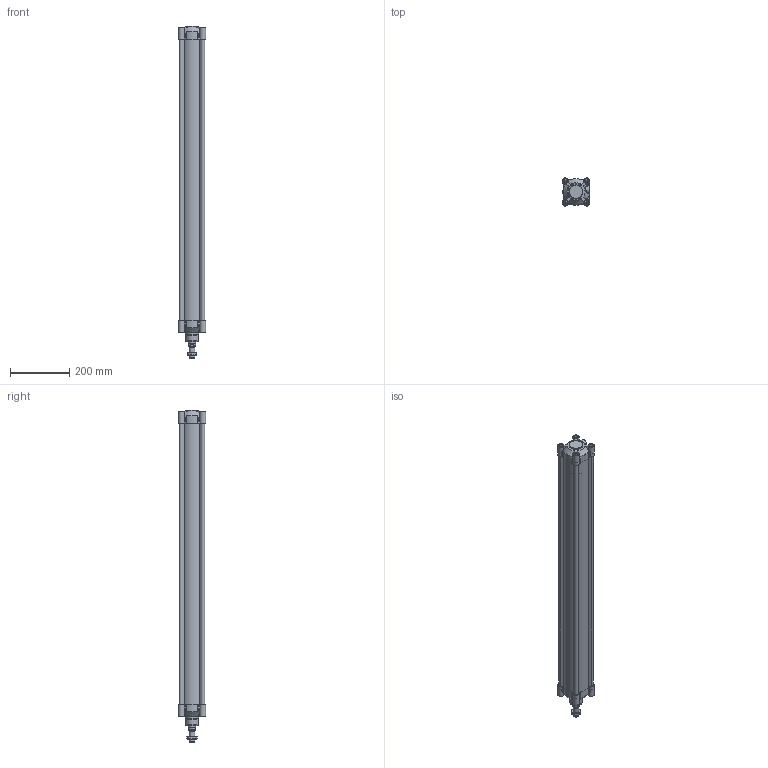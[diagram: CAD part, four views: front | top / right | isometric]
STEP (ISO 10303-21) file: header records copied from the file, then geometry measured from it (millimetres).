
FILE_DESCRIPTION(/* description */ ('Unknown'),/* implementation_level */ '2;1');
FILE_NAME(/* name */ 'HIF 80_900',/* time_stamp */ '2024-08-13T07:26:14+02:00',/* author */ ('Unknown'),/* organization */ ('Unknown'),/* preprocessor_version */ 'ST-DEVELOPER v16.7',/* originating_system */ 'Solid Edge',/* authorisation */ 'Unknown');
FILE_SCHEMA (('AUTOMOTIVE_DESIGN {1 0 10303 214 3 1 1}'));
Length unit declared in the file: millimetre
Products named in the file (6): HIF 80_900; Kit_2; Kit_1; Profilrohr 80_900; Kolbenstange 80_900; Mutter
Assembly tree (5 placements, depth 2):
  HIF 80_900
    Kit_2
    Kit_1
    Profilrohr 80_900
    Kolbenstange 80_900
    Mutter
Bounding box: 93 x 93 x 1118 mm (x, y, z)
Volume: 2397000 mm3; surface area: 1037883.1 mm2
Topology: 5 solids, 19 shells, 1302 faces, 3172 edges, 1948 vertices
Faces by surface type: cylinder 496, plane 376, cone 144, sphere 106, torus 104, bspline 76
Full cylindrical faces by diameter (mm): 8.376 x16, 10 x8, 10.3 x8, 12 x2, 13 x2, 14.94 x2, 14.95 x2, 16 x8, 16.3 x8, 17.5 x1, 18.376 x1, 20 x1, 24.5 x1, 25 x3, 25.8 x1, 25.962 x1, 30 x2, 31.5 x2, 35 x2, 43.5 x1, 45 x2, 80 x2
Entity records: 49986 total; most frequent: CARTESIAN_POINT 13445, ORIENTED_EDGE 6094, DIRECTION 5466, EDGE_CURVE 3047, AXIS2_PLACEMENT_3D 2259, VERTEX_POINT 1931, FACE_BOUND 1464, EDGE_LOOP 1456
